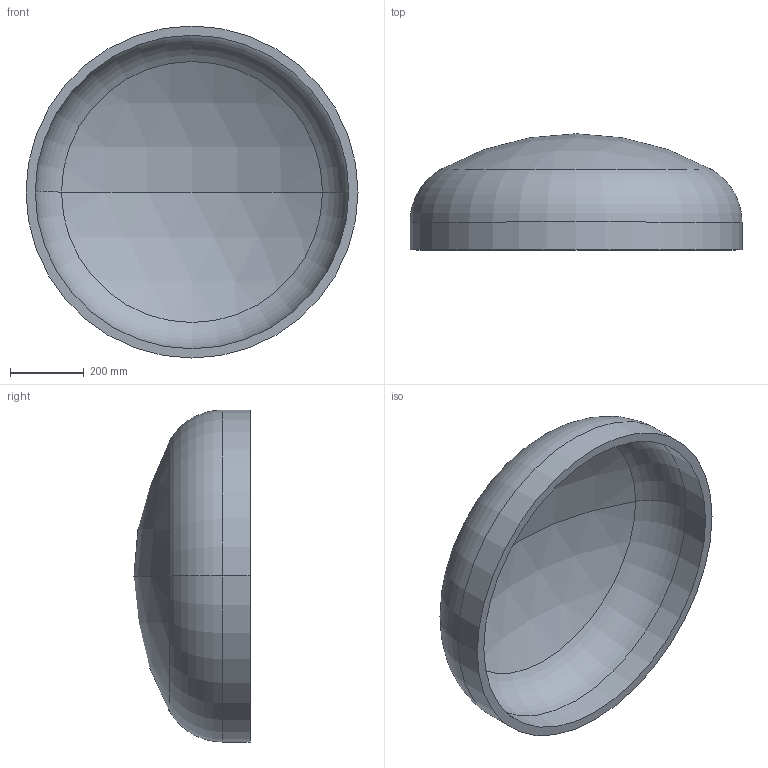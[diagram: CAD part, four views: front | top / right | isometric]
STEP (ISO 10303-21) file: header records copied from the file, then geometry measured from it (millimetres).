
FILE_DESCRIPTION (( 'STEP AP203' ), '1' );
FILE_NAME ('DIN 28013 Korbbogenform_-_Boden DIN 28013 - 900 x 75 - I - s=25.step', '2016-07-01T08:28:19', ( '' ), ( '' ), 'SwSTEP 2.0', 'SolidWorks 2013', '' );
FILE_SCHEMA (( 'CONFIG_CONTROL_DESIGN' ));
Length unit declared in the file: millimetre
Products named in the file (1): DIN 28013 Korbbogenform_-_Boden DIN 28013 - 900 x 75 - I - s=25
Bounding box: 900 x 314.85 x 900 mm (x, y, z)
Volume: 26438008.5 mm3; surface area: 2185071.4 mm2
Topology: 1 solids, 1 shells, 13 faces, 24 edges, 14 vertices
Faces by surface type: torus 4, cylinder 4, sphere 4, plane 1
Entity records: 407 total; most frequent: DIRECTION 72, CARTESIAN_POINT 52, ORIENTED_EDGE 48, AXIS2_PLACEMENT_3D 34, EDGE_CURVE 24, CIRCLE 20, EDGE_LOOP 14, VERTEX_POINT 14
